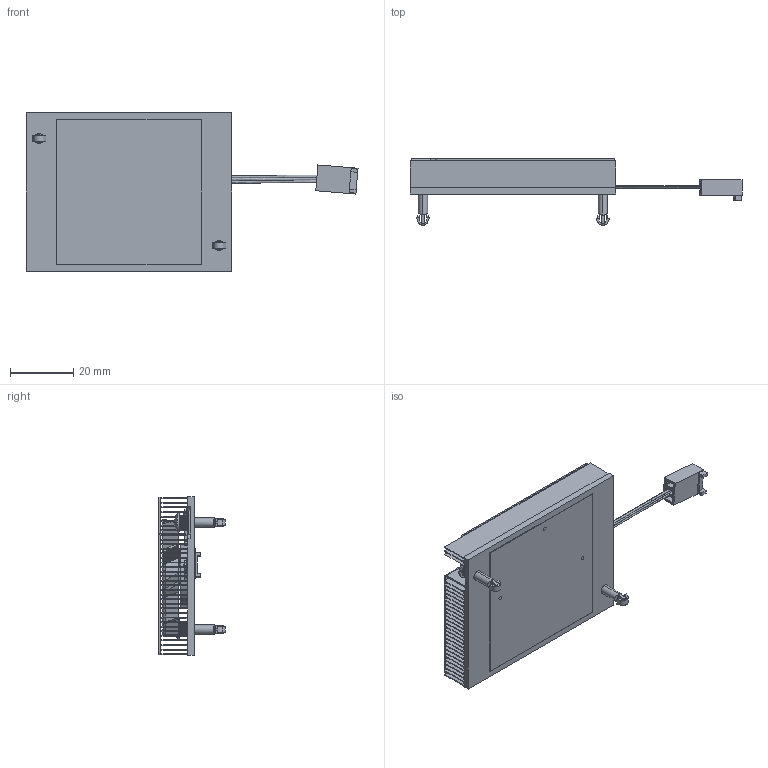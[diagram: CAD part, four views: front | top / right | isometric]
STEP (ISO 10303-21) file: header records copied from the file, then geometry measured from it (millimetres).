
FILE_DESCRIPTION (( 'STEP AP214' ), '1' );
FILE_NAME ('WV05L_B.STEP', '2024-08-29T03:51:41', ( '' ), ( '' ), 'SwSTEP 2.0', 'SolidWorks 2022', '' );
FILE_SCHEMA (( 'AUTOMOTIVE_DESIGN' ));
Length unit declared in the file: millimetre
Products named in the file (12): JPY0400805HB3A01(CWY)-X(2359); WV05L_B; RAD0001058; HS8143 (PUSH PIN)^HS8143; 22-01-3037; HS8143; HS8143 (SPRING-COMPRESSED)^HS8143_COMPRESSED; 91800A075_91800A075; PCI4019; HS8417; PB0021-01; HS8255
Assembly tree (14 placements, depth 3):
  WV05L_B
    PCI4019
    HS8417
      JPY0400805HB3A01(CWY)-X(2359)
      22-01-3037
    HS8143  x2
      HS8143 (PUSH PIN)^HS8143
      HS8143 (SPRING-COMPRESSED)^HS8143_COMPRESSED
    91800A075_91800A075  x3
    HS8255
    PB0021-01
    RAD0001058
Bounding box: 104.85 x 21 x 50 mm (x, y, z)
Volume: 12219.7 mm3; surface area: 41365 mm2
Topology: 44 solids, 44 shells, 1645 faces, 4404 edges, 2886 vertices
Faces by surface type: plane 894, bspline 419, cylinder 250, torus 40, cone 30, sphere 12
Entity records: 72968 total; most frequent: CARTESIAN_POINT 32889, ORIENTED_EDGE 7992, DIRECTION 5389, EDGE_CURVE 3996, VERTEX_POINT 2618, LINE 2413, VECTOR 2413, EDGE_LOOP 1582
